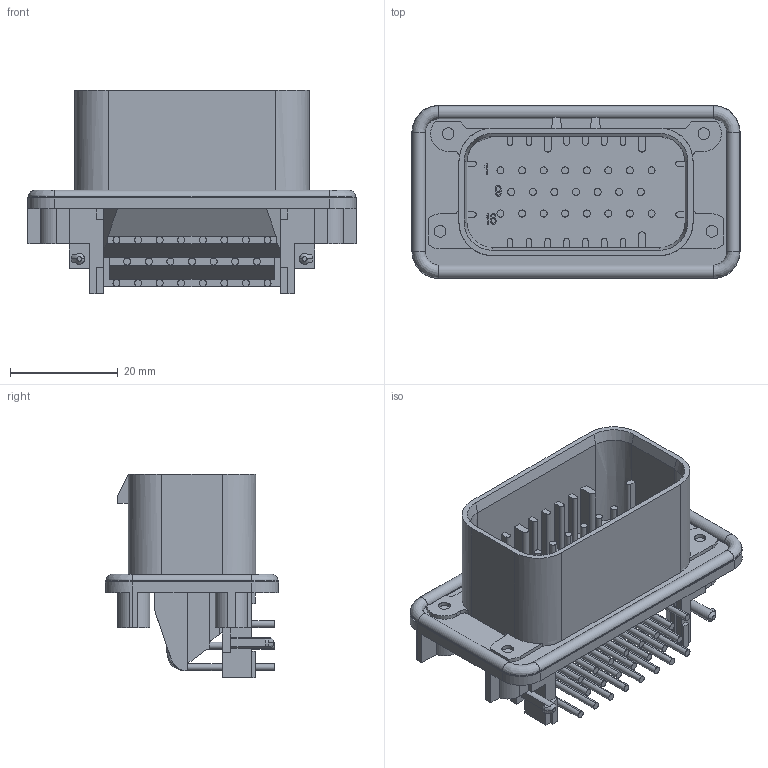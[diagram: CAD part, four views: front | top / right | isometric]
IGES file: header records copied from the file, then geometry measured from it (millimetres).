
Start section:  PTC IGES file: c-1-776087-5-l-3d.igs
Global section: file name: c-1-776087-5-l-3d.igs; native system: Pro/ENGINEER by Parametric Technology Corporation; preprocessor: 2009300; author: workeradm; organization: Unknown; units: millimetre
Bounding box: 60.8 x 32.1 x 37.8 mm (x, y, z)
Surface area: 14121.2 mm2 (no closed solid volume)
Topology: 0 solids, 0 shells, 639 faces, 3366 edges, 3366 vertices
Faces by surface type: bspline 431, revolution 206, extrusion 2
